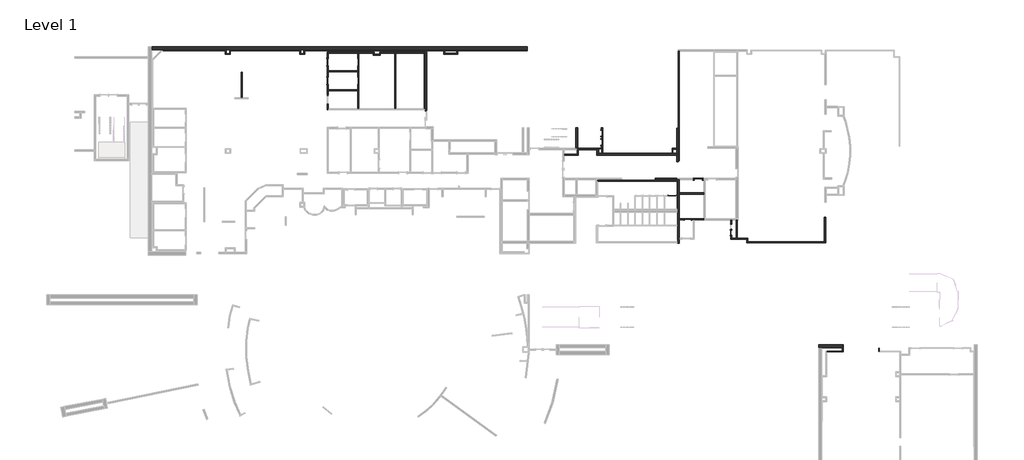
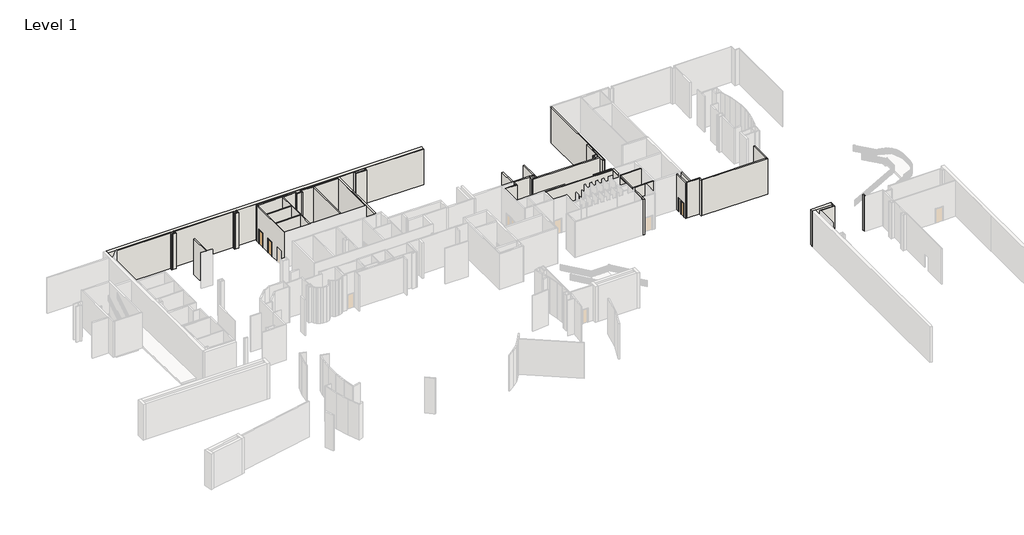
# One storey, part 8 of 10: 56 walls, 10 doors.
"""IFC4 building model written with IfcOpenShell, lengths in millimetres."""

from ifc_helpers import new_model, si_unit, frame, origin, origin_with_axes, place, context, project, spatial, polyline, outline, extrude, faceted_brep, transform, mapped, element, save
from components import door_77faabfc, door_d21431a2, door_32697e37, door_f8c0b9cb, door_f56e31f7, door_bd3f6991, door_11de03bc, door_87287b79

model = new_model("IFC4")

# Units and contexts
model_context = context("Model", 3, world=origin())
ifc_project = project(units=[si_unit("LENGTHUNIT", "METRE", prefix="MILLI")], contexts=[model_context])

# Site, building, storey
site = spatial("IfcSite", under=ifc_project)
building = spatial("IfcBuilding", under=site)
storey = spatial("IfcBuildingStorey", under=building, Name="Level 1", Elevation=0.0)

# Doors
placement = place(None, origin())
door_shape = door_77faabfc(model_context)
element("IfcDoor", 1, ObjectType="Single-Flush : 30\" x 80\"", at=placement, inside=storey, context=model_context, shape_type="MappedRepresentation", body=[
    mapped(door_shape, transform((67632.9724216, 15438.2603474, 0.0), x_axis=(0.0, -1.0, 0.0), y_axis=(1.0, 0.0, 0.0), z_axis=(0.0, 0.0, 1.0))),
])
door_2_shape = door_d21431a2(model_context)
element("IfcDoor", 2, ObjectType="Single-Flush : 32\" x 84\"", at=placement, inside=storey, context=model_context, shape_type="MappedRepresentation", body=[
    mapped(door_2_shape, transform((62306.9099216, 17073.3853474, 0.0), x_axis=(-1.0, 0.0, 0.0), y_axis=(0.0, -1.0, 0.0), z_axis=(0.0, 0.0, 1.0))),
])
door_3_shape = door_32697e37(model_context)
element("IfcDoor", 3, ObjectType="Single-Flush : 34\" x 84\"", at=placement, inside=storey, context=model_context, shape_type="MappedRepresentation", body=[
    mapped(door_3_shape, transform((21846.413319, 36401.3322026, 0.0), x_axis=(0.0, 1.0, 0.0), y_axis=(-1.0, 0.0, 0.0), z_axis=(0.0, 0.0, 1.0))),
])
element("IfcDoor", 4, ObjectType="Single-Flush : 34\" x 84\"", at=placement, inside=storey, context=model_context, shape_type="MappedRepresentation", body=[
    mapped(door_3_shape, transform((21846.413319, 34108.1884526, 0.0), x_axis=(0.0, 1.0, 0.0), y_axis=(-1.0, 0.0, 0.0), z_axis=(0.0, 0.0, 1.0))),
])
door_4_shape = door_f8c0b9cb(model_context)
element("IfcDoor", 5, ObjectType="Single-Flush : 34\" x 84\"", at=placement, inside=storey, context=model_context, shape_type="MappedRepresentation", body=[
    mapped(door_4_shape, transform((18087.213319, 36401.3322026, 0.0), x_axis=(0.0, 1.0, 0.0), y_axis=(-1.0, 0.0, 0.0), z_axis=(0.0, 0.0, 1.0))),
])
element("IfcDoor", 6, ObjectType="Single-Flush : 34\" x 84\"", at=placement, inside=storey, context=model_context, shape_type="MappedRepresentation", body=[
    mapped(door_4_shape, transform((18087.213319, 34108.1884526, 0.0), x_axis=(0.0, 1.0, 0.0), y_axis=(-1.0, 0.0, 0.0), z_axis=(0.0, 0.0, 1.0))),
])
door_5_shape = door_f56e31f7(model_context)
element("IfcDoor", 7, ObjectType="Single-Flush : 36\" x 84\"", at=placement, inside=storey, context=model_context, shape_type="MappedRepresentation", body=[
    mapped(door_5_shape, transform((60414.0544789, 19972.9858476, 0.0), x_axis=(1.0, 0.0, 0.0), y_axis=(0.0, 1.0, 0.0), z_axis=(0.0, 0.0, 1.0))),
])
door_6_shape = door_bd3f6991(model_context)
element("IfcDoor", 8, ObjectType="Single-Flush : 36\" x 84\"", at=placement, inside=storey, context=model_context, shape_type="MappedRepresentation", body=[
    mapped(door_6_shape, transform((63600.7224216, 22026.3853087, 0.0), x_axis=(1.0, 0.0, 0.0), y_axis=(0.0, 1.0, 0.0), z_axis=(0.0, 0.0, 1.0))),
])
door_7_shape = door_11de03bc(model_context)
element("IfcDoor", 9, ObjectType="Single-Flush : 36\" x 84\"", at=placement, inside=storey, context=model_context, shape_type="MappedRepresentation", body=[
    mapped(door_7_shape, transform((51761.1474216, 27504.0858435, 0.0), x_axis=(0.0, 1.0, 0.0), y_axis=(-1.0, 0.0, 0.0), z_axis=(0.0, 0.0, 1.0))),
])
door_8_shape = door_87287b79(model_context)
element("IfcDoor", 10, ObjectType="Single-Flush : 36\" x 84\"", at=placement, inside=storey, context=model_context, shape_type="MappedRepresentation", body=[
    mapped(door_8_shape, transform((51761.1474216, 26703.9858435, 0.0), x_axis=(0.0, -1.0, 0.0), y_axis=(1.0, 0.0, 0.0), z_axis=(0.0, 0.0, 1.0))),
])

# Walls
element("IfcWall", 11, ObjectType="F1C", at=placement, inside=storey, context=model_context, shape_type="Brep", body=[
    faceted_brep([(30053.788319, 30664.9009526, 0.0), (30053.788319, 37599.1009526, 0.0), (30053.788319, 37599.1009526, 5486.4), (30053.788319, 30664.9009526, 5486.4), (29945.838319, 30664.9009526, 0.0), (29945.838319, 30664.9009526, 5486.4), (29945.838319, 37491.1509526, 5486.4), (29945.838319, 37599.1009526, 5486.4), (29945.838319, 37599.1009526, 0.0), (29945.838319, 37491.1509526, 0.0), (30045.850819, 30664.9009526, 0.0), (30045.850819, 30664.9009526, 5486.4)], [[[0, 1, 2, 3]], [[4, 5, 6, 7, 8, 9]], [[1, 0, 10, 4, 9, 8]], [[3, 2, 7, 6, 5, 11]], [[2, 1, 8, 7]], [[0, 3, 11, 5, 4, 10]]]),
])
element("IfcWall", 12, ObjectType="F1C", at=placement, inside=storey, context=model_context, shape_type="Brep", body=[
    faceted_brep([(29945.838319, 37599.1009526, 0.0), (24459.438319, 37599.1009526, 0.0), (24459.438319, 37599.1009526, 5486.4), (29945.838319, 37599.1009526, 5486.4), (29945.838319, 37491.1509526, 0.0), (29945.838319, 37491.1509526, 5486.4), (26434.288319, 37491.1509526, 5486.4), (26326.338319, 37491.1509526, 5486.4), (24567.388319, 37491.1509526, 5486.4), (24459.438319, 37491.1509526, 5486.4), (24459.438319, 37491.1509526, 0.0), (24567.388319, 37491.1509526, 0.0), (26326.338319, 37491.1509526, 0.0), (26434.288319, 37491.1509526, 0.0)], [[[0, 1, 2, 3]], [[4, 5, 6, 7, 8, 9, 10, 11, 12, 13]], [[1, 0, 4, 13, 12, 11, 10]], [[3, 2, 9, 8, 7, 6, 5]], [[2, 1, 10, 9]], [[0, 3, 5, 4]]]),
])
element("IfcWall", 13, ObjectType="F1C", at=placement, inside=storey, context=model_context, shape_type="Brep", body=[
    faceted_brep([(24459.438319, 37491.1509526, 0.0), (24459.438319, 37331.3373778, 0.0), (24459.438319, 37223.3873778, 0.0), (24459.438319, 37223.3873778, 5486.4), (24459.438319, 37331.3373778, 5486.4), (24459.438319, 37491.1509526, 5486.4), (24567.388319, 37491.1509526, 0.0), (24567.388319, 37491.1509526, 5486.4), (24567.388319, 37223.3873778, 5486.4), (24567.388319, 37223.3873778, 0.0)], [[[0, 1, 2, 3, 4, 5]], [[6, 7, 8, 9]], [[2, 1, 0, 6, 9]], [[5, 4, 3, 8, 7]], [[3, 2, 9, 8]], [[0, 5, 7, 6]]]),
])
element("IfcWall", 14, ObjectType="F1C", at=placement, inside=storey, context=model_context, shape_type="Brep", body=[
    faceted_brep([(24459.438319, 37331.3373778, 0.0), (23805.388319, 37331.3373778, 0.0), (23697.438319, 37331.3373778, 0.0), (23697.438319, 37331.3373778, 5486.4), (23805.388319, 37331.3373778, 5486.4), (24459.438319, 37331.3373778, 5486.4), (24459.438319, 37223.3873778, 0.0), (24459.438319, 37223.3873778, 5486.4), (23697.438319, 37223.3873778, 5486.4), (23697.438319, 37223.3873778, 0.0)], [[[0, 1, 2, 3, 4, 5]], [[6, 7, 8, 9]], [[2, 1, 0, 6, 9]], [[5, 4, 3, 8, 7]], [[3, 2, 9, 8]], [[0, 5, 7, 6]]]),
])
element("IfcWall", 15, ObjectType="F1C", at=placement, inside=storey, context=model_context, shape_type="Brep", body=[
    faceted_brep([(23805.388319, 37331.3373778, 0.0), (23805.388319, 37607.5623778, 0.0), (23805.388319, 37607.5623778, 5486.4), (23805.388319, 37331.3373778, 5486.4), (23697.438319, 37331.3373778, 0.0), (23697.438319, 37331.3373778, 5486.4), (23697.438319, 37491.1509526, 5486.4), (23697.438319, 37599.1009526, 5486.4), (23697.438319, 37607.5623778, 5486.4), (23697.438319, 37607.5623778, 0.0), (23697.438319, 37599.1009526, 0.0), (23697.438319, 37491.1509526, 0.0)], [[[0, 1, 2, 3]], [[4, 5, 6, 7, 8, 9, 10, 11]], [[1, 0, 4, 11, 10, 9]], [[2, 1, 9, 8]], [[3, 2, 8, 7, 6, 5]], [[0, 3, 5, 4]]]),
])
element("IfcWall", 16, ObjectType="F1C", at=placement, inside=storey, context=model_context, shape_type="Brep", body=[
    faceted_brep([(23697.438319, 37599.1009526, 0.0), (18033.238319, 37599.1009526, 0.0), (18033.238319, 37599.1009526, 5486.4), (23697.438319, 37599.1009526, 5486.4), (23697.438319, 37491.1509526, 0.0), (23697.438319, 37491.1509526, 5486.4), (21900.388319, 37491.1509526, 5486.4), (21792.438319, 37491.1509526, 5486.4), (18141.188319, 37491.1509526, 5486.4), (18033.238319, 37491.1509526, 5486.4), (18033.238319, 37491.1509526, 0.0), (18141.188319, 37491.1509526, 0.0), (21792.438319, 37491.1509526, 0.0), (21900.388319, 37491.1509526, 0.0)], [[[0, 1, 2, 3]], [[4, 5, 6, 7, 8, 9, 10, 11, 12, 13]], [[1, 0, 4, 13, 12, 11, 10]], [[3, 2, 9, 8, 7, 6, 5]], [[2, 1, 10, 9]], [[0, 3, 5, 4]]]),
])
element("IfcWall", 17, ObjectType="F1C", at=placement, inside=storey, context=model_context, shape_type="Brep", body=[
    faceted_brep([(18033.238319, 33676.3884526, 0.0), (18033.238319, 32216.6822026, 0.0), (18033.238319, 32216.6822026, 2133.6), (18033.238319, 31353.0822026, 2133.6), (18033.238319, 31353.0822026, 0.0), (18033.238319, 30556.9509526, 0.0), (18033.238319, 30556.9509526, 5486.4), (18033.238319, 37491.1509526, 5486.4), (18033.238319, 37491.1509526, 0.0), (18033.238319, 36833.1322026, 0.0), (18033.238319, 36833.1322026, 2133.6), (18033.238319, 35969.5322026, 2133.6), (18033.238319, 35969.5322026, 0.0), (18033.238319, 34539.9884526, 0.0), (18033.238319, 34539.9884526, 2133.6), (18033.238319, 33676.3884526, 2133.6), (18141.188319, 32216.6822026, 2133.6), (18141.188319, 32216.6822026, 0.0), (18141.188319, 32904.8634526, 0.0), (18141.188319, 33012.8134526, 0.0), (18141.188319, 33676.3884526, 0.0), (18141.188319, 33676.3884526, 2133.6), (18141.188319, 34539.9884526, 2133.6), (18141.188319, 34539.9884526, 0.0), (18141.188319, 35203.5634526, 0.0), (18141.188319, 35311.5134526, 0.0), (18141.188319, 35969.5322026, 0.0), (18141.188319, 35969.5322026, 2133.6), (18141.188319, 36833.1322026, 2133.6), (18141.188319, 36833.1322026, 0.0), (18141.188319, 37491.1509526, 0.0), (18141.188319, 37491.1509526, 5486.4), (18141.188319, 35311.5134526, 5486.4), (18141.188319, 35203.5634526, 5486.4), (18141.188319, 33012.8134526, 5486.4), (18141.188319, 32904.8634526, 5486.4), (18141.188319, 30664.9009526, 5486.4), (18141.188319, 30556.9509526, 5486.4), (18141.188319, 30556.9509526, 0.0), (18141.188319, 30664.9009526, 0.0), (18141.188319, 31353.0822026, 0.0), (18141.188319, 31353.0822026, 2133.6)], [[[0, 1, 2, 3, 4, 5, 6, 7, 8, 9, 10, 11, 12, 13, 14, 15]], [[16, 17, 18, 19, 20, 21, 22, 23, 24, 25, 26, 27, 28, 29, 30, 31, 32, 33, 34, 35, 36, 37, 38, 39, 40, 41]], [[30, 29, 9, 8]], [[26, 25, 24, 23, 13, 12]], [[20, 19, 18, 17, 1, 0]], [[40, 39, 38, 5, 4]], [[7, 6, 37, 36, 35, 34, 33, 32, 31]], [[6, 5, 38, 37]], [[8, 7, 31, 30]], [[10, 9, 29, 28]], [[11, 10, 28, 27]], [[12, 11, 27, 26]], [[14, 13, 23, 22]], [[15, 14, 22, 21]], [[0, 15, 21, 20]], [[2, 1, 17, 16]], [[3, 2, 16, 41]], [[4, 3, 41, 40]]]),
])
element("IfcWall", 18, ObjectType="F1C", at=placement, inside=storey, context=model_context, shape_type="SweptSolid", body=[
    extrude(outline(polyline([(26434.288319, 37491.1509526), (26434.288319, 30664.9009526), (26326.338319, 30664.9009526), (26326.338319, 37491.1509526), (26434.288319, 37491.1509526)])), origin_with_axes(), (0.0, 0.0, 1.0), 5486.4),
])
element("IfcWall", 19, ObjectType="F1C", at=placement, inside=storey, context=model_context, shape_type="Brep", body=[
    faceted_brep([(21900.388319, 34539.9884526, 2133.6), (21900.388319, 34539.9884526, 0.0), (21900.388319, 35969.5322026, 0.0), (21900.388319, 35969.5322026, 2133.6), (21900.388319, 36833.1322026, 2133.6), (21900.388319, 36833.1322026, 0.0), (21900.388319, 37491.1509526, 0.0), (21900.388319, 37491.1509526, 5486.4), (21900.388319, 30664.9009526, 5486.4), (21900.388319, 30664.9009526, 0.0), (21900.388319, 33676.3884526, 0.0), (21900.388319, 33676.3884526, 2133.6), (21792.438319, 35969.5322026, 0.0), (21792.438319, 35311.5134526, 0.0), (21792.438319, 35203.5634526, 0.0), (21792.438319, 34539.9884526, 0.0), (21792.438319, 34539.9884526, 2133.6), (21792.438319, 33676.3884526, 2133.6), (21792.438319, 33676.3884526, 0.0), (21792.438319, 33012.8134526, 0.0), (21792.438319, 32904.8634526, 0.0), (21792.438319, 30664.9009526, 0.0), (21792.438319, 30664.9009526, 5486.4), (21792.438319, 32904.8634526, 5486.4), (21792.438319, 33012.8134526, 5486.4), (21792.438319, 35203.5634526, 5486.4), (21792.438319, 35311.5134526, 5486.4), (21792.438319, 37491.1509526, 5486.4), (21792.438319, 37491.1509526, 0.0), (21792.438319, 36833.1322026, 0.0), (21792.438319, 36833.1322026, 2133.6), (21792.438319, 35969.5322026, 2133.6)], [[[0, 1, 2, 3, 4, 5, 6, 7, 8, 9, 10, 11]], [[12, 13, 14, 15, 16, 17, 18, 19, 20, 21, 22, 23, 24, 25, 26, 27, 28, 29, 30, 31]], [[6, 5, 29, 28]], [[2, 1, 15, 14, 13, 12]], [[10, 9, 21, 20, 19, 18]], [[8, 7, 27, 26, 25, 24, 23, 22]], [[7, 6, 28, 27]], [[9, 8, 22, 21]], [[30, 29, 5, 4]], [[31, 30, 4, 3]], [[12, 31, 3, 2]], [[16, 15, 1, 0]], [[17, 16, 0, 11]], [[18, 17, 11, 10]]]),
])
element("IfcWall", 20, ObjectType="F1C", at=placement, inside=storey, context=model_context, shape_type="SweptSolid", body=[
    extrude(outline(polyline([(18141.188319, 35311.5134526), (21792.438319, 35311.5134526), (21792.438319, 35203.5634526), (18141.188319, 35203.5634526), (18141.188319, 35311.5134526)])), origin_with_axes(), (0.0, 0.0, 1.0), 5486.4),
])
element("IfcWall", 21, ObjectType="F1C", at=placement, inside=storey, context=model_context, shape_type="SweptSolid", body=[
    extrude(outline(polyline([(21792.438319, 32904.8634526), (18141.188319, 32904.8634526), (18141.188319, 33012.8134526), (21792.438319, 33012.8134526), (21792.438319, 32904.8634526)])), origin_with_axes(), (0.0, 0.0, 1.0), 5486.4),
])
element("IfcWall", 22, ObjectType="F1C", at=placement, inside=storey, context=model_context, shape_type="Brep", body=[
    faceted_brep([(5537.9099216, 37758.5103474, 0.0), (5537.9099216, 37335.4733474, 0.0), (5537.9099216, 37335.4733474, 5486.4), (5537.9099216, 37758.5103474, 5486.4), (5645.8599216, 37758.5103474, 0.0), (5645.8599216, 37758.5103474, 5486.4), (5645.8599216, 37443.4233474, 5486.4), (5645.8599216, 37335.4733474, 5486.4), (5645.8599216, 37335.4733474, 0.0), (5645.8599216, 37443.4233474, 0.0)], [[[0, 1, 2, 3]], [[4, 5, 6, 7, 8, 9]], [[1, 0, 4, 9, 8]], [[3, 2, 7, 6, 5]], [[2, 1, 8, 7]], [[0, 3, 5, 4]]]),
])
element("IfcWall", 23, ObjectType="F1C", at=placement, inside=storey, context=model_context, shape_type="Brep", body=[
    faceted_brep([(5645.8599216, 37335.4733474, 0.0), (6145.9224217, 37335.4733474, 0.0), (6145.9224217, 37335.4733474, 5486.4), (5645.8599216, 37335.4733474, 5486.4), (5645.8599216, 37443.4233474, 0.0), (5645.8599216, 37443.4233474, 5486.4), (6037.9724217, 37443.4233474, 5486.4), (6145.9224217, 37443.4233474, 5486.4), (6145.9224217, 37443.4233474, 0.0), (6037.9724217, 37443.4233474, 0.0)], [[[0, 1, 2, 3]], [[4, 5, 6, 7, 8, 9]], [[1, 0, 4, 9, 8]], [[3, 2, 7, 6, 5]], [[2, 1, 8, 7]], [[0, 3, 5, 4]]]),
])
element("IfcWall", 24, ObjectType="F1C", at=placement, inside=storey, context=model_context, shape_type="Brep", body=[
    faceted_brep([(6145.9224217, 37443.4233474, 0.0), (6145.9224217, 37766.4478474, 0.0), (6145.9224217, 37874.3978474, 0.0), (6145.9224217, 37874.3978474, 5486.4), (6145.9224217, 37766.4478474, 5486.4), (6145.9224217, 37443.4233474, 5486.4), (6037.9724217, 37443.4233474, 0.0), (6037.9724217, 37443.4233474, 5486.4), (6037.9724217, 37874.3978474, 5486.4), (6037.9724217, 37874.3978474, 0.0)], [[[0, 1, 2, 3, 4, 5]], [[6, 7, 8, 9]], [[2, 1, 0, 6, 9]], [[5, 4, 3, 8, 7]], [[3, 2, 9, 8]], [[0, 5, 7, 6]]]),
])
element("IfcWall", 25, ObjectType="F1C", at=placement, inside=storey, context=model_context, shape_type="Brep", body=[
    faceted_brep([(6145.9224217, 37766.4478474, 0.0), (14681.9099216, 37766.4478474, 0.0), (14789.8599216, 37766.4478474, 0.0), (14789.8599216, 37766.4478474, 5486.4), (14681.9099216, 37766.4478474, 5486.4), (6145.9224217, 37766.4478474, 5486.4), (6145.9224217, 37874.3978474, 0.0), (6145.9224217, 37874.3978474, 5486.4), (14789.8599216, 37874.3978474, 5486.4), (14789.8599216, 37874.3978474, 0.0)], [[[0, 1, 2, 3, 4, 5]], [[6, 7, 8, 9]], [[2, 1, 0, 6, 9]], [[5, 4, 3, 8, 7]], [[3, 2, 9, 8]], [[0, 5, 7, 6]]]),
])
element("IfcWall", 26, ObjectType="F1C", at=placement, inside=storey, context=model_context, shape_type="Brep", body=[
    faceted_brep([(14681.9099216, 37766.4478474, 0.0), (14681.9099216, 37335.4733474, 0.0), (14681.9099216, 37335.4733474, 5486.4), (14681.9099216, 37766.4478474, 5486.4), (14789.8599216, 37766.4478474, 0.0), (14789.8599216, 37766.4478474, 5486.4), (14789.8599216, 37443.4233474, 5486.4), (14789.8599216, 37335.4733474, 5486.4), (14789.8599216, 37335.4733474, 0.0), (14789.8599216, 37443.4233474, 0.0)], [[[0, 1, 2, 3]], [[4, 5, 6, 7, 8, 9]], [[1, 0, 4, 9, 8]], [[3, 2, 7, 6, 5]], [[2, 1, 8, 7]], [[0, 3, 5, 4]]]),
])
element("IfcWall", 27, ObjectType="F1C", at=placement, inside=storey, context=model_context, shape_type="Brep", body=[
    faceted_brep([(14789.8599216, 37335.4733474, 0.0), (15289.9224217, 37335.4733474, 0.0), (15289.9224217, 37335.4733474, 5486.4), (14789.8599216, 37335.4733474, 5486.4), (14789.8599216, 37443.4233474, 0.0), (14789.8599216, 37443.4233474, 5486.4), (15181.9724217, 37443.4233474, 5486.4), (15289.9224217, 37443.4233474, 5486.4), (15289.9224217, 37443.4233474, 0.0), (15181.9724217, 37443.4233474, 0.0)], [[[0, 1, 2, 3]], [[4, 5, 6, 7, 8, 9]], [[1, 0, 4, 9, 8]], [[3, 2, 7, 6, 5]], [[2, 1, 8, 7]], [[0, 3, 5, 4]]]),
])
element("IfcWall", 28, ObjectType="F1C", at=placement, inside=storey, context=model_context, shape_type="Brep", body=[
    faceted_brep([(15289.9224217, 37443.4233474, 0.0), (15289.9224217, 37766.4478474, 0.0), (15289.9224217, 37874.3978474, 0.0), (15289.9224217, 37874.3978474, 5486.4), (15289.9224217, 37766.4478474, 5486.4), (15289.9224217, 37443.4233474, 5486.4), (15181.9724217, 37443.4233474, 0.0), (15181.9724217, 37443.4233474, 5486.4), (15181.9724217, 37874.3978474, 5486.4), (15181.9724217, 37874.3978474, 0.0)], [[[0, 1, 2, 3, 4, 5]], [[6, 7, 8, 9]], [[2, 1, 0, 6, 9]], [[5, 4, 3, 8, 7]], [[3, 2, 9, 8]], [[0, 5, 7, 6]]]),
])
element("IfcWall", 29, ObjectType="F1C", at=placement, inside=storey, context=model_context, shape_type="Brep", body=[
    faceted_brep([(15289.9224217, 37766.4478474, 0.0), (30045.850819, 37766.4478474, 0.0), (30249.050819, 37766.4478474, 0.0), (32359.7544789, 37766.4478474, 0.0), (32467.7044789, 37766.4478474, 0.0), (33928.2044789, 37766.4478474, 0.0), (34036.1544789, 37766.4478474, 0.0), (42623.613319, 37766.4478474, 0.0), (42623.613319, 37766.4478474, 5486.4), (34036.1544789, 37766.4478474, 5486.4), (33928.2044789, 37766.4478474, 5486.4), (32467.7044789, 37766.4478474, 5486.4), (32359.7544789, 37766.4478474, 5486.4), (30249.050819, 37766.4478474, 5486.4), (30045.850819, 37766.4478474, 5486.4), (15289.9224217, 37766.4478474, 5486.4), (15289.9224217, 37874.3978474, 0.0), (15289.9224217, 37874.3978474, 5486.4), (42623.613319, 37874.3978474, 5486.4), (42623.613319, 37874.3978474, 0.0)], [[[0, 1, 2, 3, 4, 5, 6, 7, 8, 9, 10, 11, 12, 13, 14, 15]], [[16, 17, 18, 19]], [[7, 6, 5, 4, 3, 2, 1, 0, 16, 19]], [[8, 7, 19, 18]], [[15, 14, 13, 12, 11, 10, 9, 8, 18, 17]], [[0, 15, 17, 16]]]),
])
element("IfcWall", 30, ObjectType="F1C", at=placement, inside=storey, context=model_context, shape_type="Brep", body=[
    faceted_brep([(79359.8349216, 796.6236918, 0.0), (81379.1349215, 796.6236918, 0.0), (81379.1349215, 796.6236918, 5486.4), (79359.8349216, 796.6236918, 5486.4), (79359.8349216, 904.5736918, 0.0), (79359.8349216, 904.5736918, 5486.4), (81271.1849215, 904.5736918, 5486.4), (81379.1349215, 904.5736918, 5486.4), (81379.1349215, 904.5736918, 0.0), (81271.1849215, 904.5736918, 0.0)], [[[0, 1, 2, 3]], [[4, 5, 6, 7, 8, 9]], [[1, 0, 4, 9, 8]], [[3, 2, 7, 6, 5]], [[2, 1, 8, 7]], [[0, 3, 5, 4]]]),
])
element("IfcWall", 31, ObjectType="F1C", at=placement, inside=storey, context=model_context, shape_type="Brep", body=[
    faceted_brep([(81379.1349215, 904.5736918, 0.0), (81379.1349215, 1701.4986918, 0.0), (81379.1349215, 1701.4986918, 5486.4), (81379.1349215, 904.5736918, 5486.4), (81271.1849215, 904.5736918, 0.0), (81271.1849215, 904.5736918, 5486.4), (81271.1849215, 1295.0986918, 5486.4), (81271.1849215, 1701.4986918, 5486.4), (81271.1849215, 1701.4986918, 0.0), (81271.1849215, 1295.0986918, 0.0)], [[[0, 1, 2, 3]], [[4, 5, 6, 7, 8, 9]], [[1, 0, 4, 9, 8]], [[3, 2, 7, 6, 5]], [[2, 1, 8, 7]], [[0, 3, 5, 4]]]),
])
element("IfcWall", 32, ObjectType="F1C", at=placement, inside=storey, context=model_context, shape_type="SweptSolid", body=[
    extrude(outline(polyline([(61170.2599216, 24256.8228475), (61170.2599216, 37728.3478474), (61278.2099216, 37728.3478474), (61278.2099216, 24256.8228475), (61170.2599216, 24256.8228475)])), origin_with_axes(), (0.0, 0.0, 1.0), 5486.4),
])
element("IfcWall", 33, ObjectType="F1C", at=placement, inside=storey, context=model_context, shape_type="Brep", body=[
    faceted_brep([(32359.7544789, 37766.4478474, 0.0), (32359.7544789, 37367.4594628, 0.0), (32359.7544789, 37367.4594628, 5486.4), (32359.7544789, 37766.4478474, 5486.4), (32467.7044789, 37766.4478474, 0.0), (32467.7044789, 37766.4478474, 5486.4), (32467.7044789, 37475.4094628, 5486.4), (32467.7044789, 37367.4594628, 5486.4), (32467.7044789, 37367.4594628, 0.0), (32467.7044789, 37475.4094628, 0.0)], [[[0, 1, 2, 3]], [[4, 5, 6, 7, 8, 9]], [[1, 0, 4, 9, 8]], [[3, 2, 7, 6, 5]], [[2, 1, 8, 7]], [[0, 3, 5, 4]]]),
])
element("IfcWall", 34, ObjectType="F1C", at=placement, inside=storey, context=model_context, shape_type="Brep", body=[
    faceted_brep([(32467.7044789, 37367.4594628, 0.0), (34036.1544789, 37367.4594628, 0.0), (34036.1544789, 37367.4594628, 5486.4), (32467.7044789, 37367.4594628, 5486.4), (32467.7044789, 37475.4094628, 0.0), (32467.7044789, 37475.4094628, 5486.4), (33928.2044789, 37475.4094628, 5486.4), (34036.1544789, 37475.4094628, 5486.4), (34036.1544789, 37475.4094628, 0.0), (33928.2044789, 37475.4094628, 0.0)], [[[0, 1, 2, 3]], [[4, 5, 6, 7, 8, 9]], [[1, 0, 4, 9, 8]], [[3, 2, 7, 6, 5]], [[2, 1, 8, 7]], [[0, 3, 5, 4]]]),
])
element("IfcWall", 35, ObjectType="F1C", at=placement, inside=storey, context=model_context, shape_type="SweptSolid", body=[
    extrude(outline(polyline([(34036.1544789, 37766.4478474), (34036.1544789, 37475.4094628), (33928.2044789, 37475.4094628), (33928.2044789, 37766.4478474), (34036.1544789, 37766.4478474)])), origin_with_axes(), (0.0, 0.0, 1.0), 5486.4),
])
element("IfcWall", 36, ObjectType="F2A", at=placement, inside=storey, context=model_context, shape_type="SweptSolid", body=[
    extrude(outline(polyline([(85855.8849216, 1269.6986918), (85855.8849216, 904.5736918), (85747.9349216, 904.5736918), (85747.9349216, 1269.6986918), (85855.8849216, 1269.6986918)])), origin_with_axes(), (0.0, 0.0, 1.0), 5486.4),
])
element("IfcWall", 37, ObjectType="F5A", at=placement, inside=storey, context=model_context, shape_type="Brep", body=[
    faceted_brep([(60995.0794789, 21749.6344624, 0.0), (60995.0794789, 20001.5608476, 0.0), (60995.0794789, 19944.4108476, 0.0), (60995.0794789, 18447.6344624, 0.0), (60995.0794789, 18447.6344624, 5486.4), (60995.0794789, 19944.4108476, 5486.4), (60995.0794789, 20001.5608476, 5486.4), (60995.0794789, 21749.6344624, 5486.4), (61052.2294789, 21749.6344624, 0.0), (61052.2294789, 21749.6344624, 5486.4), (61052.2294789, 18447.6344624, 5486.4), (61052.2294789, 18447.6344624, 0.0)], [[[0, 1, 2, 3, 4, 5, 6, 7]], [[8, 9, 10, 11]], [[3, 2, 1, 0, 8, 11]], [[4, 3, 11, 10]], [[7, 6, 5, 4, 10, 9]], [[0, 7, 9, 8]]]),
])
element("IfcWall", 38, ObjectType="F5B", at=placement, inside=storey, context=model_context, shape_type="Brep", body=[
    faceted_brep([(51215.0288548, 21749.6344624, 0.0), (60995.0794789, 21749.6344624, 0.0), (61052.2294789, 21749.6344624, 0.0), (61076.5974216, 21749.6344624, 0.0), (61076.5974216, 21749.6344624, 5486.4), (61052.2294789, 21749.6344624, 5486.4), (60995.0794789, 21749.6344624, 5486.4), (51215.0288548, 21749.6344624, 5486.4), (51215.0288548, 21857.5844624, 0.0), (51215.0288548, 21857.5844624, 5486.4), (61076.5974216, 21857.5844624, 5486.4), (61076.5974216, 21857.5844624, 0.0)], [[[0, 1, 2, 3, 4, 5, 6, 7]], [[8, 9, 10, 11]], [[3, 2, 1, 0, 8, 11]], [[7, 6, 5, 4, 10, 9]], [[4, 3, 11, 10]], [[0, 7, 9, 8]]]),
])
element("IfcWall", 39, ObjectType="N16A", at=placement, inside=storey, context=model_context, shape_type="SweptSolid", body=[
    extrude(outline(polyline([(7576.8412217, 35127.0305348), (7576.8412217, 32013.9430348), (7453.0162217, 32013.9430348), (7453.0162217, 35127.0305348), (7576.8412217, 35127.0305348)])), origin_with_axes(), (0.0, 0.0, 1.0), 5486.4),
])
element("IfcWall", 40, ObjectType="N1A", at=placement, inside=storey, context=model_context, shape_type="Brep", body=[
    faceted_brep([(61900.5099216, 17135.2978474, 2133.6), (61900.5099216, 17135.2978474, 0.0), (61260.7474216, 17135.2978474, 0.0), (61260.7474216, 17135.2978474, 5486.4), (64270.6474216, 17135.2978474, 5486.4), (64270.6474216, 17135.2978474, 0.0), (62713.3099216, 17135.2978474, 0.0), (62713.3099216, 17135.2978474, 2133.6), (61260.7474216, 17011.4728474, 0.0), (61900.5099216, 17011.4728474, 0.0), (61900.5099216, 17011.4728474, 2133.6), (62713.3099216, 17011.4728474, 2133.6), (62713.3099216, 17011.4728474, 0.0), (63006.9974216, 17011.4728474, 0.0), (63130.8224216, 17011.4728474, 0.0), (64270.6474216, 17011.4728474, 0.0), (64270.6474216, 17011.4728474, 5486.4), (63130.8224216, 17011.4728474, 5486.4), (63006.9974216, 17011.4728474, 5486.4), (61260.7474216, 17011.4728474, 5486.4)], [[[0, 1, 2, 3, 4, 5, 6, 7]], [[8, 9, 10, 11, 12, 13, 14, 15, 16, 17, 18, 19]], [[2, 1, 9, 8]], [[6, 5, 15, 14, 13, 12]], [[4, 3, 19, 18, 17, 16]], [[5, 4, 16, 15]], [[3, 2, 8, 19]], [[10, 9, 1, 0]], [[11, 10, 0, 7]], [[12, 11, 7, 6]]]),
])
element("IfcWall", 41, ObjectType="N1A", at=placement, inside=storey, context=model_context, shape_type="Brep", body=[
    faceted_brep([(67571.0599216, 14655.6228474, 0.0), (67571.0599216, 14655.6228474, 5486.4), (67571.0599216, 16981.3103474, 5486.4), (67571.0599216, 16981.3103474, 0.0), (67571.0599216, 16463.7853474, 0.0), (67571.0599216, 16463.7853474, 2032.0), (67571.0599216, 15854.1853474, 2032.0), (67571.0599216, 15854.1853474, 0.0), (67571.0599216, 15743.0603474, 0.0), (67571.0599216, 15743.0603474, 2032.0), (67571.0599216, 15133.4603474, 2032.0), (67571.0599216, 15133.4603474, 0.0), (67694.8849216, 16981.3103474, 0.0), (67694.8849216, 16981.3103474, 5486.4), (67694.8849216, 14779.4478474, 5486.4), (67694.8849216, 14655.6228474, 5486.4), (67694.8849216, 14655.6228474, 0.0), (67694.8849216, 14779.4478474, 0.0), (67694.8849216, 15133.4603474, 0.0), (67694.8849216, 15133.4603474, 2032.0), (67694.8849216, 15743.0603474, 2032.0), (67694.8849216, 15743.0603474, 0.0), (67694.8849216, 15854.1853474, 0.0), (67694.8849216, 15854.1853474, 2032.0), (67694.8849216, 16463.7853474, 2032.0), (67694.8849216, 16463.7853474, 0.0)], [[[0, 1, 2, 3, 4, 5, 6, 7, 8, 9, 10, 11]], [[12, 13, 14, 15, 16, 17, 18, 19, 20, 21, 22, 23, 24, 25]], [[3, 12, 25, 4]], [[16, 0, 11, 18, 17]], [[7, 22, 21, 8]], [[2, 1, 15, 14, 13]], [[1, 0, 16, 15]], [[3, 2, 13, 12]], [[5, 4, 25, 24]], [[6, 5, 24, 23]], [[7, 6, 23, 22]], [[10, 19, 18, 11]], [[19, 10, 9, 20]], [[20, 9, 8, 21]]]),
])
element("IfcWall", 42, ObjectType="N1A", at=placement, inside=storey, context=model_context, shape_type="Brep", body=[
    faceted_brep([(67694.8849216, 14655.6228474, 0.0), (69545.9099216, 14655.6228474, 0.0), (69669.7349216, 14655.6228474, 0.0), (69669.7349216, 14655.6228474, 5486.4), (69545.9099216, 14655.6228474, 5486.4), (67694.8849216, 14655.6228474, 5486.4), (67694.8849216, 14779.4478474, 0.0), (67694.8849216, 14779.4478474, 5486.4), (68250.5099216, 14779.4478474, 5486.4), (68374.3349216, 14779.4478474, 5486.4), (69669.7349216, 14779.4478474, 5486.4), (69669.7349216, 14779.4478474, 0.0), (68374.3349216, 14779.4478474, 0.0), (68250.5099216, 14779.4478474, 0.0)], [[[0, 1, 2, 3, 4, 5]], [[6, 7, 8, 9, 10, 11, 12, 13]], [[2, 1, 0, 6, 13, 12, 11]], [[5, 4, 3, 10, 9, 8, 7]], [[3, 2, 11, 10]], [[0, 5, 7, 6]]]),
])
element("IfcWall", 43, ObjectType="N1A", at=placement, inside=storey, context=model_context, shape_type="Brep", body=[
    faceted_brep([(69545.9099216, 14655.6228474, 0.0), (69545.9099216, 14177.2594628, 0.0), (69545.9099216, 14177.2594628, 5486.4), (69545.9099216, 14655.6228474, 5486.4), (69669.7349216, 14655.6228474, 0.0), (69669.7349216, 14655.6228474, 5486.4), (69669.7349216, 14301.0844628, 5486.4), (69669.7349216, 14177.2594628, 5486.4), (69669.7349216, 14177.2594628, 0.0), (69669.7349216, 14301.0844628, 0.0)], [[[0, 1, 2, 3]], [[4, 5, 6, 7, 8, 9]], [[1, 0, 4, 9, 8]], [[3, 2, 7, 6, 5]], [[2, 1, 8, 7]], [[0, 3, 5, 4]]]),
])
element("IfcWall", 44, ObjectType="N1A", at=placement, inside=storey, context=model_context, shape_type="SweptSolid", body=[
    extrude(outline(polyline([(68250.5099216, 14779.4478474), (68250.5099216, 16981.3103474), (68374.3349216, 16981.3103474), (68374.3349216, 14779.4478474), (68250.5099216, 14779.4478474)])), origin_with_axes(), (0.0, 0.0, 1.0), 5486.4),
])
element("IfcWall", 45, ObjectType="N1A", at=placement, inside=storey, context=model_context, shape_type="Brep", body=[
    faceted_brep([(79264.5849216, 14301.0844628, 0.0), (79080.4349216, 14301.0844628, 0.0), (69669.7349216, 14301.0844628, 0.0), (69669.7349216, 14301.0844628, 5486.4), (79080.4349216, 14301.0844628, 5486.4), (79264.5849216, 14301.0844628, 5486.4), (79264.5849216, 14177.2594628, 0.0), (79264.5849216, 14177.2594628, 5486.4), (69669.7349216, 14177.2594628, 5486.4), (69669.7349216, 14177.2594628, 0.0)], [[[0, 1, 2, 3, 4, 5]], [[6, 7, 8, 9]], [[2, 1, 0, 6, 9]], [[5, 4, 3, 8, 7]], [[0, 5, 7, 6]], [[3, 2, 9, 8]]]),
])
element("IfcWall", 46, ObjectType="N1A", at=placement, inside=storey, context=model_context, shape_type="Brep", body=[
    faceted_brep([(-2184.8718916, 37758.5103474, 0.0), (5537.9099216, 37758.5103474, 0.0), (5645.8599216, 37758.5103474, 0.0), (5645.8599216, 37758.5103474, 5486.4), (5537.9099216, 37758.5103474, 5486.4), (-2184.8718916, 37758.5103474, 5486.4), (-2184.8718916, 37882.3353474, 0.0), (-2184.8718916, 37882.3353474, 5486.4), (5645.8599216, 37882.3353474, 5486.4), (5645.8599216, 37882.3353474, 0.0), (-2184.8718916, 37766.4478474, 0.0), (-2184.8718916, 37874.3978474, 0.0), (-2184.8718916, 37874.3978474, 5486.4), (-2184.8718916, 37766.4478474, 5486.4)], [[[0, 1, 2, 3, 4, 5]], [[6, 7, 8, 9]], [[2, 1, 0, 10, 11, 6, 9]], [[5, 4, 3, 8, 7, 12, 13]], [[0, 5, 13, 12, 7, 6, 11, 10]], [[3, 2, 9, 8]]]),
])
element("IfcWall", 47, ObjectType="N1B", at=placement, inside=storey, context=model_context, shape_type="Brep", body=[
    faceted_brep([(61076.5974216, 21934.3103087, 0.0), (61076.5974216, 21857.5844624, 0.0), (61076.5974216, 21749.6344624, 0.0), (61076.5974216, 18351.3228454, 0.0), (61076.5974216, 18167.1728454, 0.0), (61076.5974216, 18135.4228471, 0.0), (61076.5974216, 17951.2728471, 0.0), (61076.5974216, 16352.6603485, 0.0), (61076.5974216, 16295.5103485, 0.0), (61076.5974216, 14152.3853087, 0.0), (61076.5974216, 14152.3853087, 5486.4), (61076.5974216, 17951.2728471, 5486.4), (61076.5974216, 18135.4228471, 5486.4), (61076.5974216, 18167.1728454, 5486.4), (61076.5974216, 18351.3228454, 5486.4), (61076.5974216, 21749.6344624, 5486.4), (61076.5974216, 21857.5844624, 5486.4), (61076.5974216, 21934.3103087, 5486.4), (61260.7474216, 21934.3103087, 0.0), (61260.7474216, 21934.3103087, 5486.4), (61260.7474216, 20365.8603471, 5486.4), (61260.7474216, 20181.7103471, 5486.4), (61260.7474216, 17135.2978474, 5486.4), (61260.7474216, 17011.4728474, 5486.4), (61260.7474216, 14779.4478474, 5486.4), (61260.7474216, 14655.6228474, 5486.4), (61260.7474216, 14152.3853087, 5486.4), (61260.7474216, 14152.3853087, 0.0), (61260.7474216, 14655.6228474, 0.0), (61260.7474216, 14779.4478474, 0.0), (61260.7474216, 17011.4728474, 0.0), (61260.7474216, 17135.2978474, 0.0), (61260.7474216, 20181.7103471, 0.0), (61260.7474216, 20365.8603471, 0.0)], [[[0, 1, 2, 3, 4, 5, 6, 7, 8, 9, 10, 11, 12, 13, 14, 15, 16, 17]], [[18, 19, 20, 21, 22, 23, 24, 25, 26, 27, 28, 29, 30, 31, 32, 33]], [[9, 8, 7, 6, 5, 4, 3, 2, 1, 0, 18, 33, 32, 31, 30, 29, 28, 27]], [[10, 9, 27, 26]], [[17, 16, 15, 14, 13, 12, 11, 10, 26, 25, 24, 23, 22, 21, 20, 19]], [[0, 17, 19, 18]]]),
])
element("IfcWall", 48, ObjectType="N1B", at=placement, inside=storey, context=model_context, shape_type="SweptSolid", body=[
    extrude(outline(polyline([(64270.6474216, 20181.7103471), (61260.7474216, 20181.7103471), (61260.7474216, 20365.8603471), (64270.6474216, 20365.8603471), (64270.6474216, 20181.7103471)])), origin_with_axes(), (0.0, 0.0, 1.0), 5486.4),
])
element("IfcWall", 49, ObjectType="N1B", at=placement, inside=storey, context=model_context, shape_type="SweptSolid", body=[
    extrude(outline(polyline([(79080.4349216, 14301.0844628), (79080.4349216, 17365.5610797), (79264.5849216, 17365.5610797), (79264.5849216, 14301.0844628), (79080.4349216, 14301.0844628)])), origin_with_axes(), (0.0, 0.0, 1.0), 5486.4),
])
element("IfcWall", 50, ObjectType="N5A", at=placement, inside=storey, context=model_context, shape_type="Brep", body=[
    faceted_brep([(51359.5099216, 25738.7858435, 0.0), (51761.1474216, 25738.7858435, 0.0), (51862.7474216, 25738.7858435, 0.0), (51862.7474216, 25738.7858435, 5486.4), (51761.1474216, 25738.7858435, 5486.4), (51359.5099216, 25738.7858435, 5486.4), (51359.5099216, 25840.3858435, 0.0), (51359.5099216, 25840.3858435, 5486.4), (51659.5474216, 25840.3858435, 5486.4), (51862.7474216, 25840.3858435, 5486.4), (51862.7474216, 25840.3858435, 0.0), (51659.5474216, 25840.3858435, 0.0)], [[[0, 1, 2, 3, 4, 5]], [[6, 7, 8, 9, 10, 11]], [[2, 1, 0, 6, 11, 10]], [[5, 4, 3, 9, 8, 7]], [[3, 2, 10, 9]], [[0, 5, 7, 6]]]),
])
element("IfcWall", 51, ObjectType="N5A", at=placement, inside=storey, context=model_context, shape_type="SweptSolid", body=[
    extrude(outline(polyline([(51761.1474216, 25185.5103472), (51761.1474216, 25738.7858435), (51862.7474216, 25738.7858435), (51862.7474216, 25185.5103472), (51761.1474216, 25185.5103472)])), origin_with_axes(), (0.0, 0.0, 1.0), 5486.4),
])
element("IfcWall", 52, ObjectType="N5A", at=placement, inside=storey, context=model_context, shape_type="Brep", body=[
    faceted_brep([(60965.4724216, 25785.5853474, 0.0), (60397.1474216, 25785.5853474, 0.0), (60397.1474216, 25785.5853474, 5486.4), (60965.4724216, 25785.5853474, 5486.4), (60965.4724216, 25683.9853474, 0.0), (60965.4724216, 25683.9853474, 5486.4), (60498.7474216, 25683.9853474, 5486.4), (60397.1474216, 25683.9853474, 5486.4), (60397.1474216, 25683.9853474, 0.0), (60498.7474216, 25683.9853474, 0.0)], [[[0, 1, 2, 3]], [[4, 5, 6, 7, 8, 9]], [[1, 0, 4, 9, 8]], [[3, 2, 7, 6, 5]], [[2, 1, 8, 7]], [[0, 3, 5, 4]]]),
])
element("IfcWall", 53, ObjectType="N5A", at=placement, inside=storey, context=model_context, shape_type="SweptSolid", body=[
    extrude(outline(polyline([(60397.1474216, 25185.5103472), (60397.1474216, 25683.9853474), (60498.7474216, 25683.9853474), (60498.7474216, 25185.5103472), (60397.1474216, 25185.5103472)])), origin_with_axes(), (0.0, 0.0, 1.0), 5486.4),
])
element("IfcWall", 54, ObjectType="N5A", at=placement, inside=storey, context=model_context, shape_type="Brep", body=[
    faceted_brep([(47143.1099216, 24982.3103471, 0.0), (48865.5287892, 24982.3103471, 0.0), (48865.5287892, 24982.3103471, 5486.4), (47143.1099216, 24982.3103471, 5486.4), (47143.1099216, 25083.9103471, 0.0), (47143.1099216, 25083.9103471, 5486.4), (48763.9287892, 25083.9103471, 5486.4), (48865.5287892, 25083.9103471, 5486.4), (48865.5287892, 25083.9103471, 0.0), (48763.9287892, 25083.9103471, 0.0)], [[[0, 1, 2, 3]], [[4, 5, 6, 7, 8, 9]], [[1, 0, 4, 9, 8]], [[3, 2, 7, 6, 5]], [[0, 3, 5, 4]], [[2, 1, 8, 7]]]),
])
element("IfcWall", 55, ObjectType="N5A", at=placement, inside=storey, context=model_context, shape_type="SweptSolid", body=[
    extrude(outline(polyline([(48865.5287892, 25637.1858476), (48865.5287892, 25083.9103471), (48763.9287892, 25083.9103471), (48763.9287892, 25637.1858476), (48865.5287892, 25637.1858476)])), origin_with_axes(), (0.0, 0.0, 1.0), 5486.4),
])
element("IfcWall", 56, ObjectType="N5B", at=placement, inside=storey, context=model_context, shape_type="SweptSolid", body=[
    extrude(outline(polyline([(58335.2746266, 22132.2219624), (60969.6794789, 22132.2219624), (60969.6794789, 21979.8219624), (58335.2746266, 21979.8219624), (58335.2746266, 22132.2219624)])), origin_with_axes(), (0.0, 0.0, 1.0), 5486.4),
])
element("IfcWall", 57, ObjectType="N5C", at=placement, inside=storey, context=model_context, shape_type="Brep", body=[
    faceted_brep([(30045.850819, 28417.660309, 0.0), (30045.850819, 28417.660309, 5486.4), (30045.850819, 30556.9509526, 5486.4), (30045.850819, 30664.9009526, 5486.4), (30045.850819, 37766.4478474, 5486.4), (30045.850819, 37766.4478474, 0.0), (30045.850819, 30664.9009526, 0.0), (30045.850819, 30556.9509526, 0.0), (30045.850819, 30356.9259526, 0.0), (30045.850819, 30356.9259526, 2133.6), (30045.850819, 28441.472809, 2133.6), (30045.850819, 28441.472809, 0.0), (30249.050819, 37766.4478474, 0.0), (30249.050819, 37766.4478474, 5486.4), (30249.050819, 28441.472809, 5486.4), (30249.050819, 28441.472809, 2133.6), (30249.050819, 30356.9259526, 2133.6), (30249.050819, 30356.9259526, 0.0), (30147.450819, 28441.472809, 0.0), (30147.450819, 28417.660309, 0.0), (30147.450819, 28417.660309, 5486.4), (30147.450819, 28441.472809, 5486.4), (30147.450819, 28441.472809, 2133.6)], [[[0, 1, 2, 3, 4, 5, 6, 7, 8, 9, 10, 11]], [[12, 13, 14, 15, 16, 17]], [[5, 12, 17, 8, 7, 6]], [[18, 19, 0, 11]], [[4, 3, 2, 1, 20, 21, 14, 13]], [[1, 0, 19, 20]], [[19, 18, 22, 21, 20]], [[14, 21, 22, 15]], [[5, 4, 13, 12]], [[9, 8, 17, 16]], [[9, 16, 15, 22, 10]], [[10, 22, 18, 11]]]),
])
element("IfcWall", 58, ObjectType="N5C", at=placement, inside=storey, context=model_context, shape_type="Brep", body=[
    faceted_brep([(60965.4724216, 25185.5103472, 0.0), (60498.7474216, 25185.5103472, 0.0), (60397.1474216, 25185.5103472, 0.0), (51862.7474216, 25185.5103472, 0.0), (51761.1474216, 25185.5103472, 0.0), (51359.5099216, 25185.5103472, 0.0), (51156.3099216, 25185.5103472, 0.0), (51156.3099216, 25185.5103472, 5486.4), (51359.5099216, 25185.5103472, 5486.4), (51761.1474216, 25185.5103472, 5486.4), (51862.7474216, 25185.5103472, 5486.4), (60397.1474216, 25185.5103472, 5486.4), (60498.7474216, 25185.5103472, 5486.4), (60965.4724216, 25185.5103472, 5486.4), (60965.4724216, 24982.3103472, 0.0), (60965.4724216, 24982.3103472, 5486.4), (51156.3099216, 24982.3103472, 5486.4), (51156.3099216, 24982.3103472, 0.0)], [[[0, 1, 2, 3, 4, 5, 6, 7, 8, 9, 10, 11, 12, 13]], [[14, 15, 16, 17]], [[6, 5, 4, 3, 2, 1, 0, 14, 17]], [[13, 12, 11, 10, 9, 8, 7, 16, 15]], [[7, 6, 17, 16]], [[0, 13, 15, 14]]]),
])
element("IfcWall", 59, ObjectType="N5C", at=placement, inside=storey, context=model_context, shape_type="Brep", body=[
    faceted_brep([(51359.5099216, 25185.5103472, 0.0), (51359.5099216, 25738.7858435, 0.0), (51359.5099216, 25840.3858476, 0.0), (51359.5099216, 25840.3858476, 5486.4), (51359.5099216, 25738.7858435, 5486.4), (51359.5099216, 25185.5103472, 5486.4), (51156.3099216, 25185.5103472, 0.0), (51156.3099216, 25185.5103472, 5486.4), (51156.3099216, 25637.1858476, 5486.4), (51156.3099216, 25840.3858476, 5486.4), (51156.3099216, 25840.3858476, 0.0), (51156.3099216, 25637.1858476, 0.0)], [[[0, 1, 2, 3, 4, 5]], [[6, 7, 8, 9, 10, 11]], [[2, 1, 0, 6, 11, 10]], [[5, 4, 3, 9, 8, 7]], [[3, 2, 10, 9]], [[0, 5, 7, 6]]]),
])
element("IfcWall", 60, ObjectType="N5C", at=placement, inside=storey, context=model_context, shape_type="Brep", body=[
    faceted_brep([(51156.3099216, 25840.3858476, 0.0), (48773.4536757, 25840.3858476, 0.0), (48763.9287892, 25840.3858476, 0.0), (48763.9287892, 25840.3858476, 5486.4), (48773.4536757, 25840.3858476, 5486.4), (51156.3099216, 25840.3858476, 5486.4), (51156.3099216, 25637.1858476, 0.0), (51156.3099216, 25637.1858476, 5486.4), (48865.5287892, 25637.1858476, 5486.4), (48763.9287892, 25637.1858476, 5486.4), (48763.9287892, 25637.1858476, 0.0), (48865.5287892, 25637.1858476, 0.0)], [[[0, 1, 2, 3, 4, 5]], [[6, 7, 8, 9, 10, 11]], [[2, 1, 0, 6, 11, 10]], [[5, 4, 3, 9, 8, 7]], [[3, 2, 10, 9]], [[0, 5, 7, 6]]]),
])
element("IfcWall", 61, ObjectType="N5C", at=placement, inside=storey, context=model_context, shape_type="SweptSolid", body=[
    extrude(outline(polyline([(25840.3858435, 0.0), (25840.3858435, 5486.4), (28304.1858435, 5486.4), (28304.1858435, 0.0), (28012.0858435, 0.0), (28012.0858435, 2133.6), (26195.9858435, 2133.6), (26195.9858435, 0.0), (25840.3858435, 0.0)])), frame((51659.5474216, 0.0, 0.0), z_axis=(1.0, 0.0, 0.0), x_axis=(0.0, 1.0, 0.0)), (0.0, 0.0, 1.0), 203.2),
])
element("IfcWall", 62, ObjectType="N5C", at=placement, inside=storey, context=model_context, shape_type="Brep", body=[
    faceted_brep([(48773.4536757, 25840.3858476, 0.0), (48773.4536757, 28304.1858476, 0.0), (48773.4536757, 28304.1858476, 5486.4), (48773.4536757, 25840.3858476, 5486.4), (48570.2536757, 25840.3858476, 0.0), (48570.2536757, 25840.3858476, 5486.4), (48570.2536757, 28304.1858476, 5486.4), (48570.2536757, 28304.1858476, 0.0), (48763.9287892, 25840.3858476, 0.0), (48763.9287892, 25840.3858476, 5486.4)], [[[0, 1, 2, 3]], [[4, 5, 6, 7]], [[1, 0, 8, 4, 7]], [[2, 1, 7, 6]], [[3, 2, 6, 5, 9]], [[0, 3, 9, 5, 4, 8]]]),
])
element("IfcWall", 63, ObjectType="N6B", at=placement, inside=storey, context=model_context, shape_type="SweptSolid", body=[
    extrude(outline(polyline([(60965.4724216, 24184.6233477), (60965.4724216, 28299.4233477), (61168.6724216, 28299.4233477), (61168.6724216, 24184.6233477), (60965.4724216, 24184.6233477)])), frame((0.0, 0.0, -3657.6), z_axis=(0.0, 0.0, 1.0), x_axis=(1.0, 0.0, 0.0)), (0.0, 0.0, 1.0), 9144.0),
])
element("IfcWall", 64, ObjectType="N6B", at=placement, inside=storey, context=model_context, shape_type="Brep", body=[
    faceted_brep([(61168.6724216, 24256.8228475, 0.0), (61168.6724216, 28299.4233477, 0.0), (61168.6724216, 28299.4233477, 5486.4), (61168.6724216, 24256.8228475, 5486.4), (60965.4724216, 24256.8228475, 0.0), (60965.4724216, 24256.8228475, 5486.4), (60965.4724216, 24982.3103472, 5486.4), (60965.4724216, 25185.5103472, 5486.4), (60965.4724216, 25683.9853474, 5486.4), (60965.4724216, 25785.5853474, 5486.4), (60965.4724216, 28299.4233477, 5486.4), (60965.4724216, 28299.4233477, 0.0), (60965.4724216, 25785.5853474, 0.0), (60965.4724216, 25683.9853474, 0.0), (60965.4724216, 25185.5103472, 0.0), (60965.4724216, 24982.3103472, 0.0)], [[[0, 1, 2, 3]], [[4, 5, 6, 7, 8, 9, 10, 11, 12, 13, 14, 15]], [[1, 0, 4, 15, 14, 13, 12, 11]], [[2, 1, 11, 10]], [[3, 2, 10, 9, 8, 7, 6, 5]], [[0, 3, 5, 4]]]),
])
element("IfcWall", 65, ObjectType="N9A", at=placement, inside=storey, context=model_context, shape_type="Brep", body=[
    faceted_brep([(81271.1849215, 1701.4986918, 0.0), (78381.9349216, 1701.4986918, 0.0), (78381.9349216, 1701.4986918, 5486.4), (81271.1849215, 1701.4986918, 5486.4), (81271.1849215, 1295.0986918, 0.0), (81271.1849215, 1295.0986918, 5486.4), (78788.3349216, 1295.0986918, 5486.4), (78381.9349216, 1295.0986918, 5486.4), (78381.9349216, 1295.0986918, 0.0), (78788.3349216, 1295.0986918, 0.0)], [[[0, 1, 2, 3]], [[4, 5, 6, 7, 8, 9]], [[1, 0, 4, 9, 8]], [[3, 2, 7, 6, 5]], [[2, 1, 8, 7]], [[0, 3, 5, 4]]]),
])
element("IfcWall", 66, ObjectType="N9A", at=placement, inside=storey, context=model_context, shape_type="SweptSolid", body=[
    extrude(outline(polyline([(42623.613319, 37896.6228474), (-3529.8900784, 37896.6228474), (-3529.8900784, 38303.0228474), (42623.613319, 38303.0228474), (42623.613319, 37896.6228474)])), origin_with_axes(), (0.0, 0.0, 1.0), 5486.4),
])

save(model, "model.ifc")
